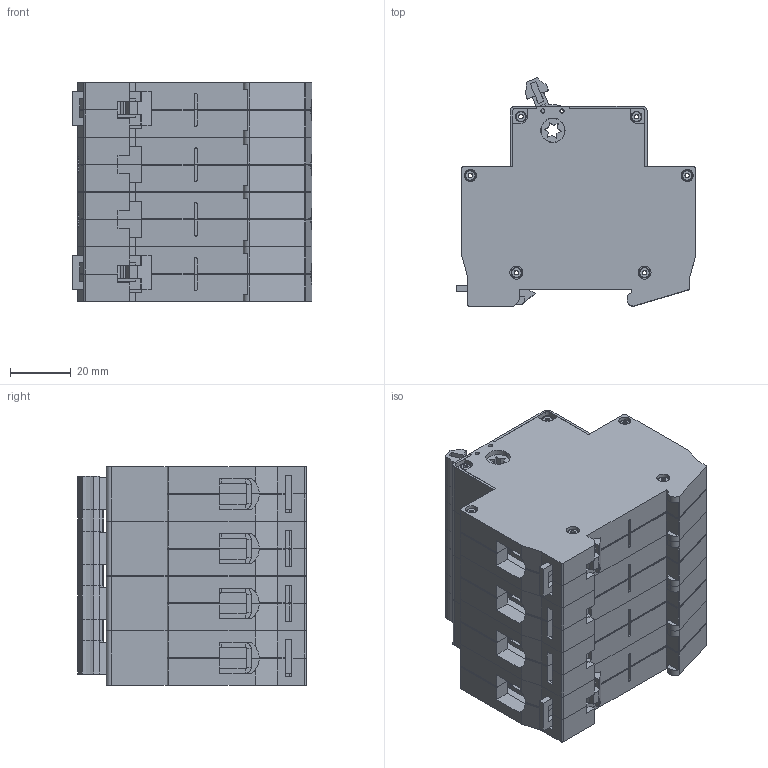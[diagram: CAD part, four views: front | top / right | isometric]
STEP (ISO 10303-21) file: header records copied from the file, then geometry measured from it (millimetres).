
FILE_DESCRIPTION (( 'STEP AP214' ), '1' );
FILE_NAME ('蟬-32 4 瀁錌黟.STEP', '2022-11-18T10:11:00', ( '' ), ( '' ), 'SwSTEP 2.0', 'SolidWorks 2018', '' );
FILE_SCHEMA (( 'AUTOMOTIVE_DESIGN' ));
Length unit declared in the file: millimetre
Products named in the file (14): 鎔艜 蟬32 (4.04.2022); Êîëîäêà ÂÍ32 (4.04.2022); 蟬-32 4 瀁錌黟; ÂÍ-32 1Õ Changan_1 ¤«ï 4; 褪浯 糂粲濱red; ﾂﾍ-32 1ﾕ Changan_｡･ｧ ｧ鬣ｫｪｨ; ìåæïîëþñíàÿ âñòàâêà äëÿ ÂÍ32; Çàùåëêà (ÂÀ47-29 Changan) 04.2022; Áîêîâèíà ïðàâàÿ ÂÍ32 Changan(4.04.2022); öâåòíàÿ âñòàâêà_§¥«ñ­ ï; Ðó÷êà ÂÍ32 Changan; Áîêîâèíà ëåâàÿ ÂÍ32 Changan(4.04.2022); ﾂﾍ-32 1ﾕ Changan_尚皚･､ｭｨｩ ｯｮｫ髜; 青觌屣赅 峦32 Changan_69
Assembly tree (41 placements, depth 3):
  蟬-32 4 瀁錌黟
    ÂÍ-32 1Õ Changan_1 ¤«ï 4
      Áîêîâèíà ïðàâàÿ ÂÍ32 Changan(4.04.2022)
      Áîêîâèíà ëåâàÿ ÂÍ32 Changan(4.04.2022)
      Çàùåëêà (ÂÀ47-29 Changan) 04.2022
      Ðó÷êà ÂÍ32 Changan
      鎔艜 蟬32 (4.04.2022)  x2
      Êîëîäêà ÂÍ32 (4.04.2022)  x2
      青觌屣赅 峦32 Changan_69  x6
      öâåòíàÿ âñòàâêà_§¥«ñ­ ï
      褪浯 糂粲濱red
    ﾂﾍ-32 1ﾕ Changan_｡･ｧ ｧ鬣ｫｪｨ  x2
      Áîêîâèíà ïðàâàÿ ÂÍ32 Changan(4.04.2022)
      Áîêîâèíà ëåâàÿ ÂÍ32 Changan(4.04.2022)
      Ðó÷êà ÂÍ32 Changan
      鎔艜 蟬32 (4.04.2022)
      Êîëîäêà ÂÍ32 (4.04.2022)
      öâåòíàÿ âñòàâêà_§¥«ñ­ ï
      褪浯 糂粲濱red
      ìåæïîëþñíàÿ âñòàâêà äëÿ ÂÍ32
    ﾂﾍ-32 1ﾕ Changan_尚皚･､ｭｨｩ ｯｮｫ髜
      Áîêîâèíà ïðàâàÿ ÂÍ32 Changan(4.04.2022)
      Áîêîâèíà ëåâàÿ ÂÍ32 Changan(4.04.2022)
      Çàùåëêà (ÂÀ47-29 Changan) 04.2022
      Ðó÷êà ÂÍ32 Changan
      鎔艜 蟬32 (4.04.2022)  x2
      Êîëîäêà ÂÍ32 (4.04.2022)  x2
      öâåòíàÿ âñòàâêà_§¥«ñ­ ï
      褪浯 糂粲濱red
      ìåæïîëþñíàÿ âñòàâêà äëÿ ÂÍ32
Bounding box: 78.8 x 75.18 x 72 mm (x, y, z)
Volume: 225094.7 mm3; surface area: 134842 mm2
Topology: 47 solids, 47 shells, 3192 faces, 8578 edges, 5532 vertices
Faces by surface type: plane 2262, cylinder 802, torus 104, cone 24
Entity records: 21673 total; most frequent: CARTESIAN_POINT 3803, ORIENTED_EDGE 3608, DIRECTION 3581, EDGE_CURVE 1804, VECTOR 1367, LINE 1367, VERTEX_POINT 1177, AXIS2_PLACEMENT_3D 1107
